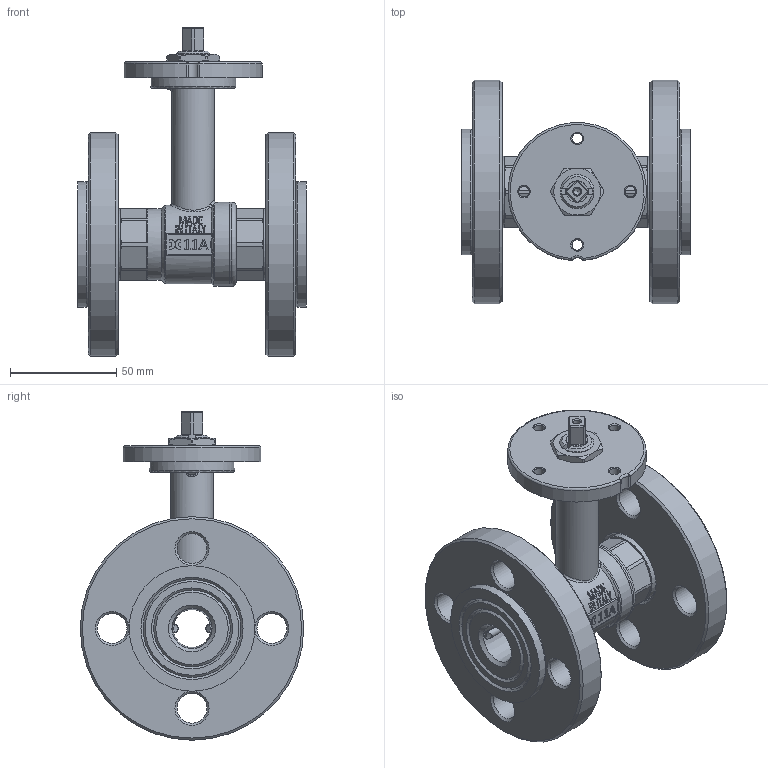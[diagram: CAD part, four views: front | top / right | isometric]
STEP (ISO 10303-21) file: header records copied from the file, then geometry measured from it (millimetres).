
FILE_DESCRIPTION(/* description */ ('Sfera 3/4"'),/* implementation_level */ '2;1');
FILE_NAME(/* name */ '\\dcidrosfer01\user$\ut4\Desktop\TICOM 95 PME STP\Art.95 PME DN20.stp',/* time_stamp */ '2015-07-21T11:47:45+02:00',/* author */ ('ut4'),/* organization */ (''),/* preprocessor_version */ 'ST-DEVELOPER v15.6',/* originating_system */ 'Autodesk Inventor 2015',/* authorisation */ '');
FILE_SCHEMA (('AUTOMOTIVE_DESIGN { 1 0 10303 214 3 1 1 }'));
Length unit declared in the file: millimetre
Products named in the file (17): sfera 034; Dischetto portamotore SM Ø16 lav.; Dado blocca piastra SM1; Anello antigrip. perno mot. Ø13; Boccola antigrip. perno mot. Ø13; O-ring 9.75x1.78; sede 034; Manic. femmina-deviatore 034 mot.; Corpo prolunga mot. 034; Perno prolunga mot. 13 q8; Tubetto prolunga mot. 014-034; Ghiera ferma asta mot. 17-16 prolunga; O-ring 23.53 x 1.78; O-ring 26.70 x 1.78; Flangia PN16 DN20; Bocchettone DN20; Valv. mot. 034 art.95 PM SM
Assembly tree (23 placements, depth 2):
  Valv. mot. 034 art.95 PM SM
    sfera 034
    Dischetto portamotore SM Ø16 lav.
    Dado blocca piastra SM1
    Anello antigrip. perno mot. Ø13
    Boccola antigrip. perno mot. Ø13  x2
    O-ring 9.75x1.78  x2
    sede 034  x2
    Manic. femmina-deviatore 034 mot.
    Corpo prolunga mot. 034
    Perno prolunga mot. 13 q8
    Tubetto prolunga mot. 014-034
    Ghiera ferma asta mot. 17-16 prolunga
    O-ring 23.53 x 1.78  x2
    O-ring 26.70 x 1.78  x2
    Flangia PN16 DN20  x2
    Bocchettone DN20  x2
Bounding box: 107.5 x 105 x 154.25 mm (x, y, z)
Volume: 327489.4 mm3; surface area: 121545.8 mm2
Topology: 23 solids, 23 shells, 864 faces, 2122 edges, 1333 vertices
Faces by surface type: plane 359, cylinder 184, bspline 133, cone 108, torus 59, sphere 21
Full cylindrical faces by diameter (mm): 3.242 x1, 4.917 x4, 10 x4, 10.1 x2, 10.2 x1, 10.4 x2, 11 x3, 11.1 x1, 12.9 x6, 13 x2, 14 x8, 14.5 x1, 15 x1, 15.3 x1, 15.5 x1, 16 x2, 17 x1, 20 x8, 24 x2, 24.2 x2, 26.44 x2, 28 x4, 29 x2, 32.5 x1, 33.5 x3, 34 x1, 34.5 x1, 35 x2, 37 x1, 39.5 x2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
Entity records: 26801 total; most frequent: CARTESIAN_POINT 8317, ORIENTED_EDGE 3610, DIRECTION 3452, EDGE_CURVE 1805, AXIS2_PLACEMENT_3D 1316, VERTEX_POINT 1214, EDGE_LOOP 1011, LINE 820
